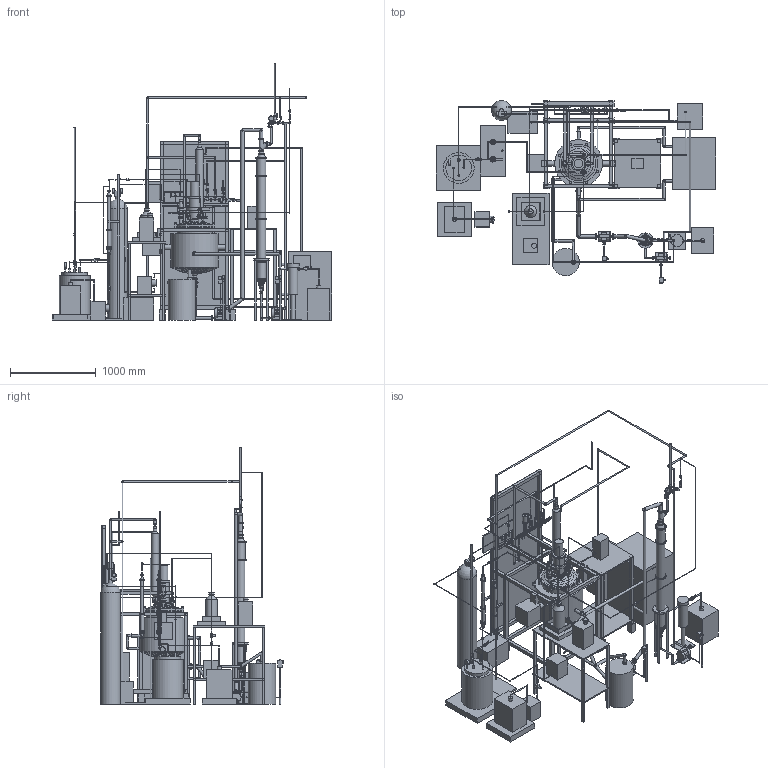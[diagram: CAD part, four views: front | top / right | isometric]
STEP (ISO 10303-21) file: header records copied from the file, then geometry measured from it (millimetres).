
FILE_DESCRIPTION(('Open CASCADE Model'),'2;1');
FILE_NAME('Open CASCADE Shape Model','2026-10-02T09:48:05',('Author'),( 'Open CASCADE'),'Open CASCADE STEP processor 7.9','Open CASCADE 7.9' ,'Unknown');
FILE_SCHEMA(('AUTOMOTIVE_DESIGN { 1 0 10303 214 1 1 1 1 }'));
Length unit declared in the file: millimetre
Products named in the file (203): Установка синтеза 
ТЕФКОТ 770; Реактор Wiggens 50 л (R-1); Корпус реактора 
(внутренний сосуд); Рубашка реактора 
(теплоноситель); Крышка реактора; Откидные болты 
крышки, 8 шт.; Штуцер крышки под 
конденсатор, кламп DN25 
(N3 / P1); Штуцер крышки под 
термогильзу, кламп DN25 
(N4 / P2); Штуцер крышки для 
дозирования, кламп DN25 
(N5 / P3); Штуцер крышки 
резервный, кламп DN25 (N1 / 
P4); Штуцер крышки под 
манометр, 8 мм (N2 / T1); Штуцер крышки ввода 
газа, 8 мм (N6 / T2); Штуцер привода 
мешалки DN133 (M); Фонарь (стойка) 
привода мешалки; Мотор мешалки WB400; Мешалка лопастная с 
валом D26; Патрубок рубашки — 
выход 
теплоносителя, 
кламп DN25 (N7); Патрубок рубашки — 
вход теплоносителя, 
кламп DN25 (N8); Цапфы 
опрокидывания 
реактора; Редуктор 
опрокидывания 
реактора; Нижний сливной 
патрубок DN38 (L); Рама реактора и 
тележка управления; Рама-стойка 
реактора Wiggens; Тележка блока 
управления; Блок управления 
реактора; Конденсатор 
змеевиковый (E-1); Переходник кламп K50,5 
-> шлиф (муфта) на 
штуцере P1 под 
конденсатор; Конденсатор 
змеевиковый 
стеклянный, 
комплект Wiggens (E-1); Оливы 
теплоносителя 
конденсатора (вход 
снизу, выход сверху); Переходник шлиф 
(керн) -> ёлочка 3/4" на 
верху конденсатора; Гребёнка: шпунт, 
аварийный сброс, 
аргон, вакуум, 
атмосфера; 
коллектор сбросов; Вход гребёнки: 
штуцер шланговый 
кламп K25 (ёлочка), 
хомут, отвод 90° 1/2"; Рукав 3/4" на ёлочках 
с хомутами от верха 
конденсатора на 
вход гребёнки; Коллектор гребёнки 
1/2" (тройники на 
клампах); Хомуты кламповые 
1/2" коллектора 
гребёнки; Тройник 1/2" ветки 
шпунт-аппарата; Кран шаровой кламп 
1/2" перед 
шпунт-аппаратом (SV-1); Хомут 1/2" над краном 
шпунт-аппарата; Переход кламповый 
1/2" -> 50,5 под 
шпунт-аппарат; Шпунт-аппарат с 
манометром, DN25 — 
рабочий регулятор 
давления (PCV-1) ...
Assembly tree (202 placements, depth 3):
  Установка синтеза 
ТЕФКОТ 770
    Реактор Wiggens 50 л (R-1)
      Корпус реактора 
(внутренний сосуд)
      Рубашка реактора 
(теплоноситель)
      Крышка реактора
      Откидные болты 
крышки, 8 шт.
      Штуцер крышки под 
конденсатор, кламп DN25 
(N3 / P1)
      Штуцер крышки под 
термогильзу, кламп DN25 
(N4 / P2)
      Штуцер крышки для 
дозирования, кламп DN25 
(N5 / P3)
      Штуцер крышки 
резервный, кламп DN25 (N1 / 
P4)
      Штуцер крышки под 
манометр, 8 мм (N2 / T1)
      Штуцер крышки ввода 
газа, 8 мм (N6 / T2)
      Штуцер привода 
мешалки DN133 (M)
      Фонарь (стойка) 
привода мешалки
      Мотор мешалки WB400
      Мешалка лопастная с 
валом D26
      Патрубок рубашки — 
выход 
теплоносителя, 
кламп DN25 (N7)
      Патрубок рубашки — 
вход теплоносителя, 
кламп DN25 (N8)
      Цапфы 
опрокидывания 
реактора
      Редуктор 
опрокидывания 
реактора
      Нижний сливной 
патрубок DN38 (L)
    Рама реактора и 
тележка управления
      Рама-стойка 
реактора Wiggens
      Тележка блока 
управления
      Блок управления 
реактора
    Конденсатор 
змеевиковый (E-1)
      Переходник кламп K50,5 
-> шлиф (муфта) на 
штуцере P1 под 
конденсатор
      Конденсатор 
змеевиковый 
стеклянный, 
комплект Wiggens (E-1)
      Оливы 
теплоносителя 
конденсатора (вход 
снизу, выход сверху)
      Переходник шлиф 
(керн) -> ёлочка 3/4" на 
верху конденсатора
    Гребёнка: шпунт, 
аварийный сброс, 
аргон, вакуум, 
атмосфера; 
коллектор сбросов
      Вход гребёнки: 
штуцер шланговый 
кламп K25 (ёлочка), 
хомут, отвод 90° 1/2"
      Рукав 3/4" на ёлочках 
с хомутами от верха 
конденсатора на 
вход гребёнки
      Коллектор гребёнки 
1/2" (тройники на 
клампах)
      Хомуты кламповые 
1/2" коллектора 
гребёнки
      Тройник 1/2" ветки 
шпунт-аппарата
      Кран шаровой кламп 
1/2" перед 
шпунт-аппаратом (SV-1)
      Хомут 1/2" над краном 
шпунт-аппарата
      Переход кламповый 
1/2" -> 50,5 под 
шпунт-аппарат
      Шпунт-аппарат с 
манометром, DN25 — 
рабочий регулятор 
давления (PCV-1)
      Тройник 1/2" ветки 
аварийного 
обратного клапана
      Кран шаровой кламп 
1/2" под аварийным 
клапаном, всегда 
открыт (SV-2)
      Хомут 1/2" над краном 
аварийного клапана
      Клапан обратный 
пружинный кламп 1/2" 
— аварийный сброс 
(NRV-1)
      Хомут 1/2" над 
обратным клапаном
      Тройник 1/2" ветки 
вакуума
      Кран шаровой кламп 
1/2" — вакуум (VV-1)
      Хомут 1/2" над краном 
вакуума
      Переходник кламп 
1/2" -> ёлочка под 
вакуумный шланг
      Тройник 1/2" ветки 
аргона
      Кран шаровой кламп 
1/2" — ввод аргона в 
гребёнку (AV-1)
      Хомут 1/2" над краном 
аргона
      Переходник кламп 
1/2" -> резьба G1/2" -> 
трубка 1/4" (ввод 
аргона)
      Кран шаровой кламп 
1/2" на конце 
коллектора — сброс 
на атмосферу, vent (SV-3)
      Хомут 1/2" за краном 
сброса на атмосферу
      Переходник кламп 
1/2" -> ёлочка (сброс 
на атмосферу)
      Шланг сброса на 
атмосферу в вытяжку
      Уголки и консоли 
крепления гребёнки 
к раме
      Коллектор сбросов 
от обратного 
клапана NRV-1 в вытяжку
    Узлы крышки 
реактора: 
термогильза, 
дозирование, резерв, 
манометр, ввод газа
Bounding box: 3260 x 2135 x 3005.25 mm (x, y, z)
Volume: 850872679.2 mm3; surface area: 32184637.9 mm2
Topology: 818 solids, 818 shells, 2552 faces, 3510 edges, 2324 vertices
Faces by surface type: plane 1782, cylinder 561, sphere 135, cone 74
Full cylindrical faces by diameter (mm): 6 x24, 6.35 x58, 8 x44, 10 x5, 10.2 x2, 11 x6, 11.5 x7, 12 x9, 13.2 x1, 13.7 x4, 13.8 x1, 14 x8, 16 x27, 17 x6, 18 x1, 19 x30, 20 x8, 20.4 x1, 20.9 x1, 21 x1, 21.85 x13, 22 x6, 24 x6, 25 x44, 25.4 x2, 26 x1, 28 x1, 30 x20, 32 x5, 32.3 x1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
Entity records: 99306 total; most frequent: DIRECTION 16023, CARTESIAN_POINT 14255, LINE 6907, VECTOR 6907, ORIENTED_EDGE 6202, PCURVE 6202, DEFINITIONAL_REPRESENTATION 6202, AXIS2_PLACEMENT_3D 3973
